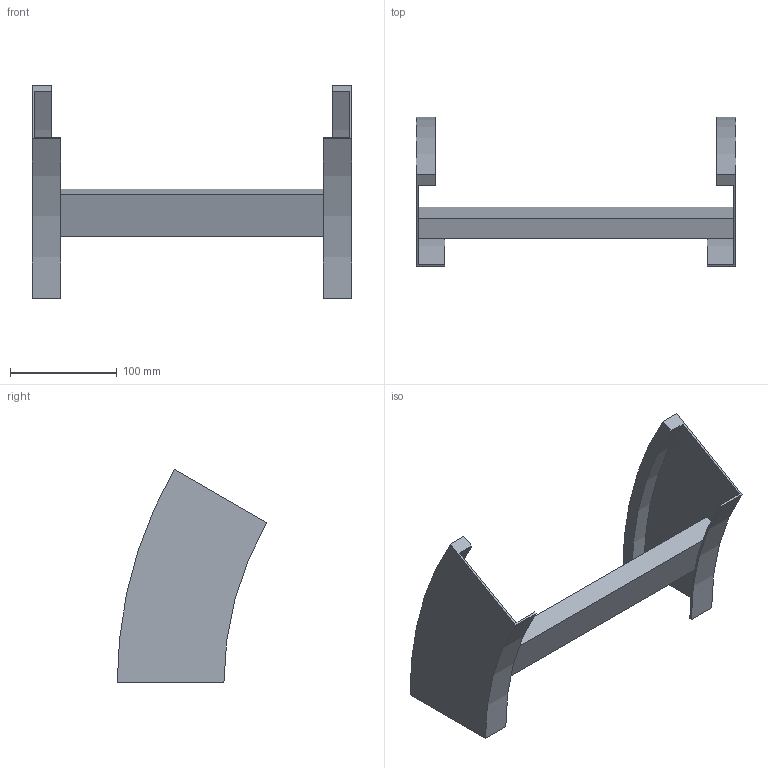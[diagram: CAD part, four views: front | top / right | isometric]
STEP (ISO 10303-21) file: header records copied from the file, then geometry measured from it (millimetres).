
FILE_DESCRIPTION (( 'STEP AP214' ), '1' );
FILE_NAME ('B2_35B3D300.step', '2025-02-21T14:46:46', ( '' ), ( '' ), 'SwSTEP 2.0', 'SolidWorks 2023', '' );
FILE_SCHEMA (( 'AUTOMOTIVE_DESIGN' ));
Length unit declared in the file: millimetre
Products named in the file (3): B2_LONGH.DISCESA_30°_H100_R300; B2_35B3D300; TRAVERSINO_300
Assembly tree (3 placements, depth 2):
  B2_35B3D300
    B2_LONGH.DISCESA_30°_H100_R300  x2
    TRAVERSINO_300
Bounding box: 300 x 140.19 x 200 mm (x, y, z)
Volume: 408042.6 mm3; surface area: 142937.3 mm2
Topology: 3 solids, 3 shells, 26 faces, 60 edges, 40 vertices
Faces by surface type: plane 18, cylinder 8
Entity records: 544 total; most frequent: DIRECTION 88, CARTESIAN_POINT 82, ORIENTED_EDGE 72, EDGE_CURVE 36, AXIS2_PLACEMENT_3D 30, LINE 28, VECTOR 28, VERTEX_POINT 24
